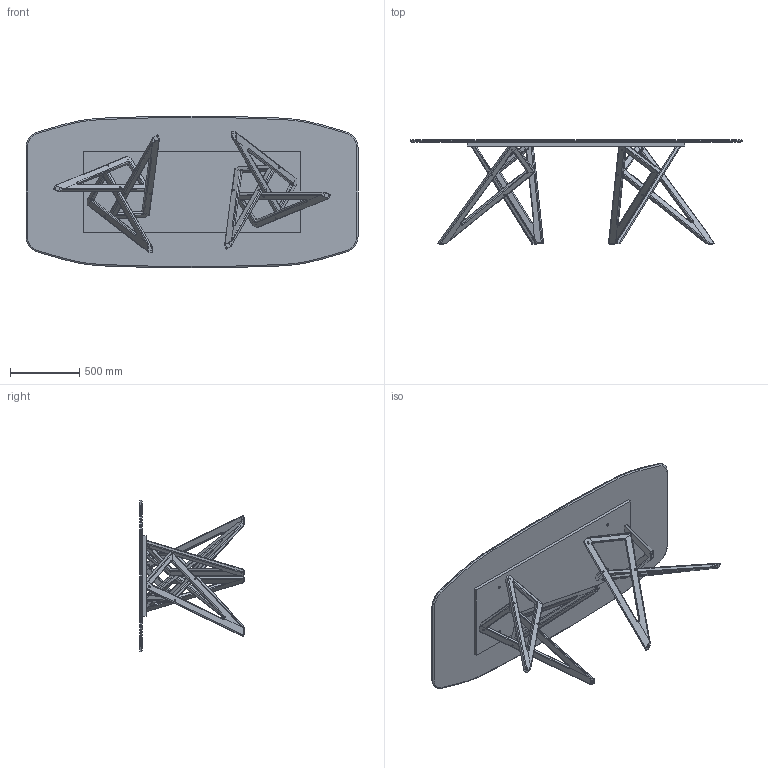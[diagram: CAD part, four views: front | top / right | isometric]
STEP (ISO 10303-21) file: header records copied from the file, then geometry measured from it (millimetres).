
FILE_DESCRIPTION (( 'STEP AP203' ), '1' );
FILE_NAME ('ENNEA - Table grès 240x110.STEP', '2026-09-15T11:37:54', ( '' ), ( '' ), 'SwSTEP 2.0', 'SolidWorks 2023', '' );
FILE_SCHEMA (( 'CONFIG_CONTROL_DESIGN' ));
Length unit declared in the file: millimetre
Products named in the file (15): 000fd5d_010 - Plateau rect 240 x 110 avec platines; Ecrou cylindrique M8 D12 L20 (81064614); Vis métaux M8x40 CHC Zinguée (81064204)_Vis métaux M8x40 CHC Zn; ENNEA - Table grès 240x110; Rondelle 06x18 noire (81063606)_010-Rondelle plate 6x18 noire (81063606); Patin 30x30 Ø10 noir (81077452)_Patin 30x30 noir; Vis Confirmat Ø7 x 50 Zn noir (81073737)_010-VIS CONFIRMAT 7x50 Zn NOIRE; Cache adhésif  D12 noir (81060272); 000fd5e_030-Plateau rectangulaire 240x110; 0009d85_020 - Pietement double version grès; 00078c3_010-Platine de plateau; 000760e_010-Pied equerre 30x50; 000af63_010-Platine D170 M6; Rondelle 08x22 (81073102)_Zinguée; 000a8c6_020-Entretoise double pied - version Grès L580
Assembly tree (62 placements, depth 3):
  ENNEA - Table grès 240x110
    0009d85_020 - Pietement double version grès
      000760e_010-Pied equerre 30x50  x6
      Vis Confirmat Ø7 x 50 Zn noir (81073737)_010-VIS CONFIRMAT 7x50 Zn NOIRE  x12
      Ecrou cylindrique M8 D12 L20 (81064614)  x6
      Vis métaux M8x40 CHC Zinguée (81064204)_Vis métaux M8x40 CHC Zn  x6
      Rondelle 08x22 (81073102)_Zinguée  x6
      Cache adhésif  D12 noir (81060272)  x6
      Patin 30x30 Ø10 noir (81077452)_Patin 30x30 noir  x6
      Rondelle 06x18 noire (81063606)_010-Rondelle plate 6x18 noire (81063606)  x4
      000a8c6_020-Entretoise double pied - version Grès L580
    000fd5d_010 - Plateau rect 240 x 110 avec platines
      000fd5e_030-Plateau rectangulaire 240x110
      00078c3_010-Platine de plateau  x2
      000af63_010-Platine D170 M6  x4
Bounding box: 2400 x 752.6 x 1096.45 mm (x, y, z)
Volume: 80073129.5 mm3; surface area: 8993417.2 mm2
Topology: 76 solids, 76 shells, 3834 faces, 8188 edges, 4560 vertices
Faces by surface type: cone 1532, cylinder 1358, plane 740, torus 180, bspline 24
Entity records: 23706 total; most frequent: CARTESIAN_POINT 4592, DIRECTION 3687, ORIENTED_EDGE 3176, EDGE_CURVE 1588, AXIS2_PLACEMENT_3D 1434, VERTEX_POINT 924, LINE 819, VECTOR 819
